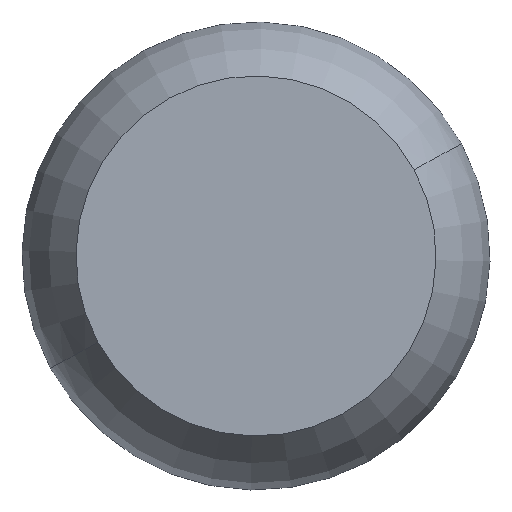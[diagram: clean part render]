
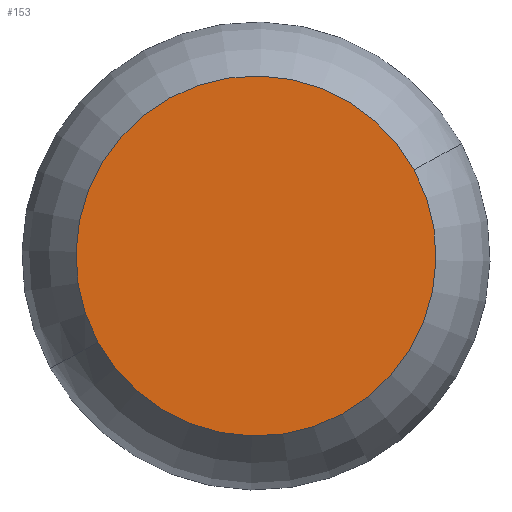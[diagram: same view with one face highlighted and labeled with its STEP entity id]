
A CAD part, front view. The second image highlights one B-rep face of the part: STEP entity #153.
In plain terms, the highlighted planar face has unit normal (0, -1, 0).
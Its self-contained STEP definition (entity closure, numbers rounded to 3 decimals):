
#66=CARTESIAN_POINT('Axis2P3D Location',(0.,0.,0.)) ;
#70=CARTESIAN_POINT('Vertex',(96.534,0.,52.737)) ;
#72=CARTESIAN_POINT('Vertex',(-96.534,0.,-52.737)) ;
#127=CARTESIAN_POINT('Axis2P3D Location',(0.,0.,0.)) ;
#144=CARTESIAN_POINT('Axis2P3D Location',(0.,0.,0.)) ;
#67=DIRECTION('Axis2P3D Direction',(0.,-1.,0.)) ;
#128=DIRECTION('Axis2P3D Direction',(0.,-1.,0.)) ;
#145=DIRECTION('Axis2P3D Direction',(0.,-1.,0.)) ;
#146=DIRECTION('Axis2P3D XDirection',(1.,0.,0.)) ;
#68=AXIS2_PLACEMENT_3D('Circle Axis2P3D',#66,#67,$) ;
#129=AXIS2_PLACEMENT_3D('Circle Axis2P3D',#127,#128,$) ;
#147=AXIS2_PLACEMENT_3D('Plane Axis2P3D',#144,#145,#146) ;
#150=ORIENTED_EDGE('',*,*,#74,.T.) ;
#151=ORIENTED_EDGE('',*,*,#131,.T.) ;
#153=ADVANCED_FACE('PartBody',(#152),#148,.T.) ;
#69=CIRCLE('generated circle',#68,110.) ;
#130=CIRCLE('generated circle',#129,110.) ;
#74=EDGE_CURVE('',#71,#73,#69,.T.) ;
#131=EDGE_CURVE('',#73,#71,#130,.T.) ;
#149=EDGE_LOOP('',(#150,#151)) ;
#152=FACE_OUTER_BOUND('',#149,.T.) ;
#148=PLANE('',#147) ;
#71=VERTEX_POINT('',#70) ;
#73=VERTEX_POINT('',#72) ;
